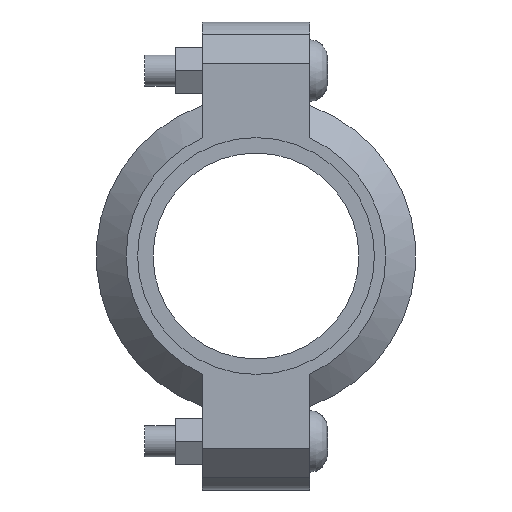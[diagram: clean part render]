
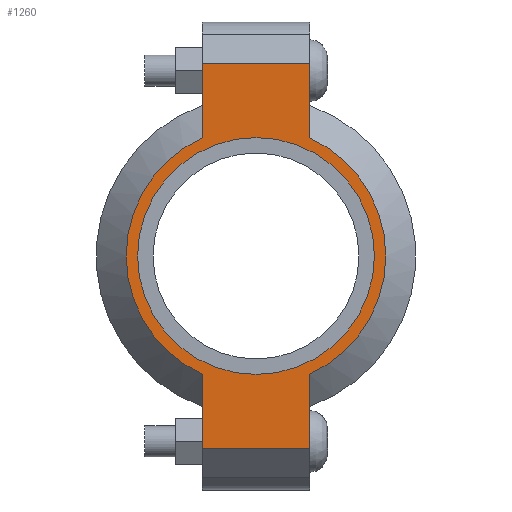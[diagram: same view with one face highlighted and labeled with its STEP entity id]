
A CAD part, left-side view. The second image highlights one B-rep face of the part: STEP entity #1260.
In plain terms, the highlighted planar face has unit normal (-1, 0, 0) as drawn and (0, 0, 1) by its records, which use the part's own axes.
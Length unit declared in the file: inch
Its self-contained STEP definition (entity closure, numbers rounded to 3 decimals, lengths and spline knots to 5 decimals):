
#101=LINE('',#2165,#188);
#109=LINE('',#2201,#196);
#116=LINE('',#2222,#203);
#125=LINE('',#2254,#212);
#126=LINE('',#2258,#213);
#127=LINE('',#2260,#214);
#188=VECTOR('',#1764,0.3937);
#196=VECTOR('',#1780,0.3937);
#203=VECTOR('',#1799,0.3937);
#212=VECTOR('',#1824,0.3937);
#213=VECTOR('',#1829,0.3937);
#214=VECTOR('',#1830,0.3937);
#258=FACE_BOUND('',#406,.T.);
#318=FACE_OUTER_BOUND('',#405,.T.);
#405=EDGE_LOOP('',(#1032,#1033,#1034,#1035,#1036,#1037,#1038,#1039));
#406=EDGE_LOOP('',(#1040));
#454=CIRCLE('',#1424,1.4375);
#480=CIRCLE('',#1483,1.575);
#481=CIRCLE('',#1484,1.575);
#522=VERTEX_POINT('',#1981);
#565=VERTEX_POINT('',#2162);
#566=VERTEX_POINT('',#2164);
#577=VERTEX_POINT('',#2196);
#578=VERTEX_POINT('',#2200);
#585=VERTEX_POINT('',#2219);
#586=VERTEX_POINT('',#2221);
#596=VERTEX_POINT('',#2257);
#597=VERTEX_POINT('',#2259);
#648=EDGE_CURVE('',#522,#522,#454,.T.);
#709=EDGE_CURVE('',#566,#565,#101,.T.);
#723=EDGE_CURVE('',#578,#577,#109,.T.);
#733=EDGE_CURVE('',#586,#585,#116,.T.);
#748=EDGE_CURVE('',#578,#565,#125,.T.);
#749=EDGE_CURVE('',#577,#586,#480,.T.);
#750=EDGE_CURVE('',#596,#585,#126,.T.);
#751=EDGE_CURVE('',#596,#597,#127,.T.);
#752=EDGE_CURVE('',#597,#566,#481,.T.);
#1032=ORIENTED_EDGE('',*,*,#748,.F.);
#1033=ORIENTED_EDGE('',*,*,#723,.T.);
#1034=ORIENTED_EDGE('',*,*,#749,.T.);
#1035=ORIENTED_EDGE('',*,*,#733,.T.);
#1036=ORIENTED_EDGE('',*,*,#750,.F.);
#1037=ORIENTED_EDGE('',*,*,#751,.T.);
#1038=ORIENTED_EDGE('',*,*,#752,.T.);
#1039=ORIENTED_EDGE('',*,*,#709,.T.);
#1040=ORIENTED_EDGE('',*,*,#648,.T.);
#1127=PLANE('',#1482);
#1260=ADVANCED_FACE('',(#318,#258),#1127,.T.);
#1424=AXIS2_PLACEMENT_3D('',#1983,#1640,#1641);
#1482=AXIS2_PLACEMENT_3D('',#2255,#1825,#1826);
#1483=AXIS2_PLACEMENT_3D('',#2256,#1827,#1828);
#1484=AXIS2_PLACEMENT_3D('',#2261,#1831,#1832);
#1640=DIRECTION('center_axis',(0.,0.,-1.));
#1641=DIRECTION('ref_axis',(-1.,0.,0.));
#1764=DIRECTION('',(-1.,0.,0.));
#1780=DIRECTION('',(1.,0.,0.));
#1799=DIRECTION('',(1.,0.,0.));
#1824=DIRECTION('',(0.,1.,0.));
#1825=DIRECTION('center_axis',(0.,0.,1.));
#1826=DIRECTION('ref_axis',(1.,0.,0.));
#1827=DIRECTION('center_axis',(0.,0.,1.));
#1828=DIRECTION('ref_axis',(-1.,0.,0.));
#1829=DIRECTION('',(0.,-1.,0.));
#1830=DIRECTION('',(-1.,0.,0.));
#1831=DIRECTION('center_axis',(0.,0.,1.));
#1832=DIRECTION('ref_axis',(-1.,0.,0.));
#1981=CARTESIAN_POINT('',(1.4375,0.,0.94));
#1983=CARTESIAN_POINT('Origin',(0.,0.,0.94));
#2162=CARTESIAN_POINT('',(-2.34,0.65,0.94));
#2164=CARTESIAN_POINT('',(-1.43462,0.65,0.94));
#2165=CARTESIAN_POINT('',(-2.84,0.65,0.94));
#2196=CARTESIAN_POINT('',(-1.43462,-0.65,0.94));
#2200=CARTESIAN_POINT('',(-2.34,-0.65,0.94));
#2201=CARTESIAN_POINT('',(2.84,-0.65,0.94));
#2219=CARTESIAN_POINT('',(2.34,-0.65,0.94));
#2221=CARTESIAN_POINT('',(1.43462,-0.65,0.94));
#2222=CARTESIAN_POINT('',(2.84,-0.65,0.94));
#2254=CARTESIAN_POINT('',(-2.34,0.325,0.94));
#2255=CARTESIAN_POINT('Origin',(0.,0.,
0.94));
#2256=CARTESIAN_POINT('Origin',(0.,0.,0.94));
#2257=CARTESIAN_POINT('',(2.34,0.65,0.94));
#2258=CARTESIAN_POINT('',(2.34,-0.325,0.94));
#2259=CARTESIAN_POINT('',(1.43462,0.65,0.94));
#2260=CARTESIAN_POINT('',(-2.84,0.65,0.94));
#2261=CARTESIAN_POINT('Origin',(0.,0.,0.94));
